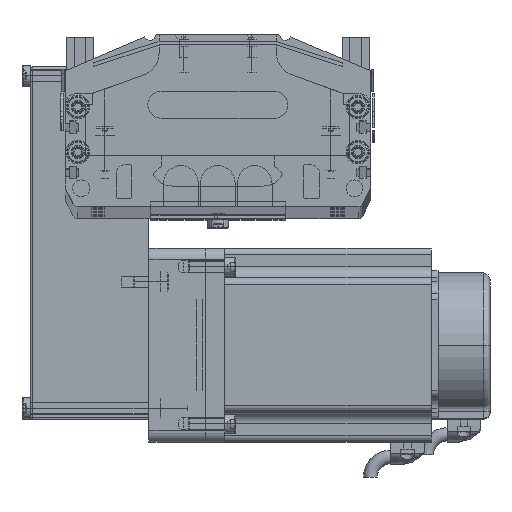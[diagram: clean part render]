
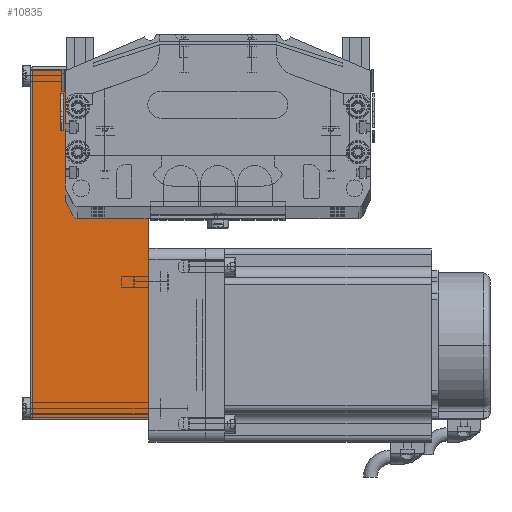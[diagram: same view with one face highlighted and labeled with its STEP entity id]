
A CAD part, top view. The second image highlights one B-rep face of the part: STEP entity #10835.
In plain terms, the highlighted planar face has unit normal (0, 0, 1) as drawn and (0, -1, 0) by its records, which use the part's own axes.
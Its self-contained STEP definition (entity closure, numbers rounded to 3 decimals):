
#10673 = EDGE_LOOP ( 'NONE', ( #10769, #10767, #10684, #10685 ) ) ;
#10678 = EDGE_CURVE ( 'NONE', #10819, #10818, #64536, .T. ) ;
#10684 = ORIENTED_EDGE ( 'NONE', *, *, #10678, .T. ) ;
#10685 = ORIENTED_EDGE ( 'NONE', *, *, #10756, .T. ) ;
#10715 = VERTEX_POINT ( 'NONE', #65374 ) ;
#10756 = EDGE_CURVE ( 'NONE', #10818, #10715, #65192, .T. ) ;
#10767 = ORIENTED_EDGE ( 'NONE', *, *, #10768, .T. ) ;
#10768 = EDGE_CURVE ( 'NONE', #10806, #10819, #65493, .T. ) ;
#10769 = ORIENTED_EDGE ( 'NONE', *, *, #10807, .T. ) ;
#10806 = VERTEX_POINT ( 'NONE', #65703 ) ;
#10807 = EDGE_CURVE ( 'NONE', #10715, #10806, #65862, .T. ) ;
#10818 = VERTEX_POINT ( 'NONE', #65709 ) ;
#10819 = VERTEX_POINT ( 'NONE', #65742 ) ;
#10835 = ADVANCED_FACE ( 'NONE', ( #65904 ), #65997, .F. ) ;
#64404 = CARTESIAN_POINT ( 'NONE',  ( 32., -40., 51.5 ) ) ;
#64478 = DIRECTION ( 'NONE',  ( -1., 0., 0. ) ) ;
#64501 = VECTOR ( 'NONE', #64478, 1000. ) ;
#64536 = LINE ( 'NONE', #64404, #64501 ) ;
#65192 = LINE ( 'NONE', #65337, #65336 ) ;
#65334 = DIRECTION ( 'NONE',  ( 0., 0., -1. ) ) ;
#65336 = VECTOR ( 'NONE', #65334, 1000. ) ;
#65337 = CARTESIAN_POINT ( 'NONE',  ( -123.2, -40., 52.5 ) ) ;
#65374 = CARTESIAN_POINT ( 'NONE',  ( -123.2, -40., 0. ) ) ;
#65489 = DIRECTION ( 'NONE',  ( 0., 0., 1. ) ) ;
#65490 = VECTOR ( 'NONE', #65489, 1000. ) ;
#65492 = CARTESIAN_POINT ( 'NONE',  ( 31., -40., 52.5 ) ) ;
#65493 = LINE ( 'NONE', #65492, #65490 ) ;
#65652 = DIRECTION ( 'NONE',  ( -1., 0., 0. ) ) ;
#65672 = AXIS2_PLACEMENT_3D ( 'NONE', #65680, #65914, #65652 ) ;
#65680 = CARTESIAN_POINT ( 'NONE',  ( 32., -40., 52.5 ) ) ;
#65703 = CARTESIAN_POINT ( 'NONE',  ( 31., -40., 0. ) ) ;
#65709 = CARTESIAN_POINT ( 'NONE',  ( -123.2, -40., 51.5 ) ) ;
#65742 = CARTESIAN_POINT ( 'NONE',  ( 31., -40., 51.5 ) ) ;
#65862 = LINE ( 'NONE', #65957, #65955 ) ;
#65904 = FACE_OUTER_BOUND ( 'NONE', #10673, .T. ) ;
#65914 = DIRECTION ( 'NONE',  ( 0., 1., 0. ) ) ;
#65954 = DIRECTION ( 'NONE',  ( 1., 0., 0. ) ) ;
#65955 = VECTOR ( 'NONE', #65954, 1000. ) ;
#65957 = CARTESIAN_POINT ( 'NONE',  ( 32., -40., 0. ) ) ;
#65997 = PLANE ( 'NONE',  #65672 ) ;
